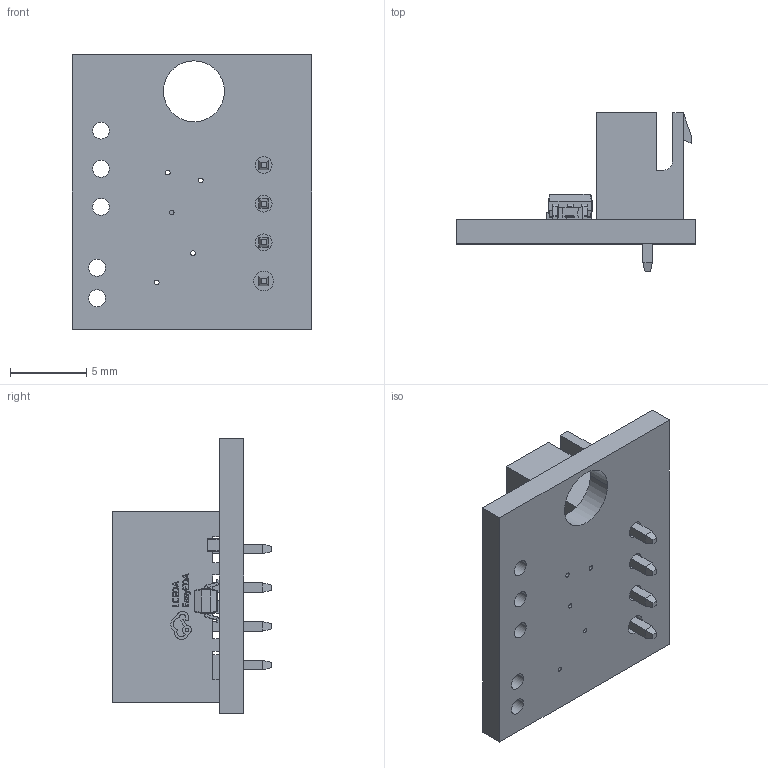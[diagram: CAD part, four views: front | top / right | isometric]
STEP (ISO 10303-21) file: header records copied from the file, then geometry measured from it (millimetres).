
FILE_DESCRIPTION(('Open CASCADE Model'),'2;1');
FILE_NAME('force-adc-custom-pcb.step','2026-11-14T14:31:51',('Author'),( 'Open CASCADE'),'Open CASCADE STEP processor 8.0','Open CASCADE 8.0' ,'Unknown');
FILE_SCHEMA(('AP242_MANAGED_MODEL_BASED_3D_ENGINEERING_MIM_LF {1 0 10303 442 1 1 4 }' ));
Products named in the file (1): Force Sensor ADC Adapter
Bounding box: 15.72 x 10.4 x 18.01 mm (x, y, z)
Volume: 669.9 mm3; surface area: 1387.1 mm2
Topology: 16 solids, 16 shells, 1770 faces, 4589 edges, 2940 vertices
Faces by surface type: plane 982, bspline 472, cylinder 210, torus 60, sphere 46
Entity records: 129250 total; most frequent: CARTESIAN_POINT 43854, DIRECTION 13333, LINE 9717, VECTOR 9717, ORIENTED_EDGE 9138, PCURVE 9138, DEFINITIONAL_REPRESENTATION 9138, EDGE_CURVE 4569
